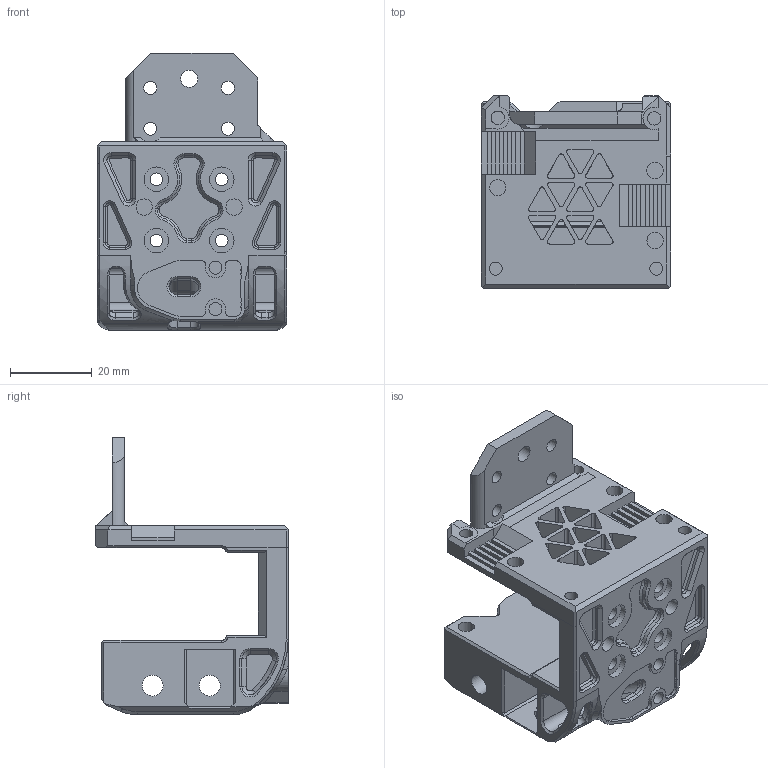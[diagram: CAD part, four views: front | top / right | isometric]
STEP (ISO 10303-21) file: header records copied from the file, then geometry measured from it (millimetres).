
FILE_DESCRIPTION(/* description */ (''),/* implementation_level */ '2;1');
FILE_NAME(/* name */ 'Y:/Mainpart_fly_sth36.step',/* time_stamp */ '2022-03-27T13:55:23+02:00',/* author */ (''),/* organization */ (''),/* preprocessor_version */ 'ST-DEVELOPER v18.1',/* originating_system */ 'Autodesk Translation Framework v10.13.0.1454',/* authorisation */ '');
FILE_SCHEMA (('AUTOMOTIVE_DESIGN { 1 0 10303 214 3 1 1 }'));
Length unit declared in the file: millimetre
Products named in the file (1): Mainpart
Bounding box: 46.3 x 47.15 x 67.83 mm (x, y, z)
Volume: 35048.9 mm3; surface area: 22532 mm2
Topology: 1 solids, 1 shells, 772 faces, 2083 edges, 1324 vertices
Faces by surface type: plane 394, cylinder 219, cone 90, bspline 69
Full cylindrical faces by diameter (mm): 3.1 x4, 3.2 x8, 3.3 x2, 4 x8, 4.15 x1, 5.1 x2, 6 x4
Entity records: 26225 total; most frequent: CARTESIAN_POINT 6806, ORIENTED_EDGE 4158, DIRECTION 3840, EDGE_CURVE 2079, LINE 1386, VECTOR 1386, VERTEX_POINT 1324, AXIS2_PLACEMENT_3D 1227
